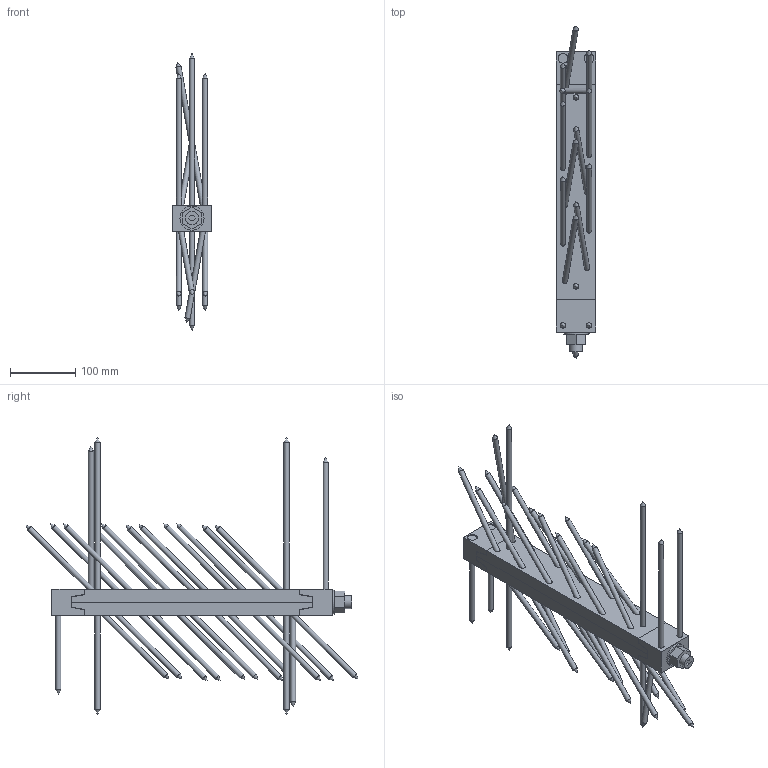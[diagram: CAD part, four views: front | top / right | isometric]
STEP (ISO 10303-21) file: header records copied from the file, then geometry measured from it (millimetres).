
FILE_DESCRIPTION(/* description */ ('Unknown'),/* implementation_level */ '2;1');
FILE_NAME(/* name */ 'MEGANT_430x60x40_Sichtbar',/* time_stamp */ '2023-11-09T15:23:58+01:00',/* author */ ('Unknown'),/* organization */ ('Unknown'),/* preprocessor_version */ 'ST-DEVELOPER v18.104',/* originating_system */ 'Solid Edge',/* authorisation */ 'Unknown');
FILE_SCHEMA (('AUTOMOTIVE_DESIGN {1 0 10303 214 3 1 1}'));
Length unit declared in the file: millimetre
Products named in the file (14): MEGANT_430x60x40_Sichtbar; Verbinderplatte_370x60x20_HT; Verbinderplatte_370x60x20; SK_Schraube_8x160; Verbinderplatte_370x60x20_NT; SK_Schraube_8x240; Spannbacke_oben_60x50x40_NT; Spannbacke_oben_60x50x40; Spannbacke_unten_60x50x40_HT; Spannbacke_unten_60x50x40; Gewindestange_M20_L460; Mutter_M20; Beilagscheibe_M20
Assembly tree (44 placements, depth 3):
  MEGANT_430x60x40_Sichtbar
    Verbinderplatte_370x60x20_HT
      Verbinderplatte_370x60x20
      SK_Schraube_8x160  x14
    Verbinderplatte_370x60x20_NT
      Verbinderplatte_370x60x20
      SK_Schraube_8x160  x11
      SK_Schraube_8x240  x3
    Spannbacke_oben_60x50x40_NT
      Spannbacke_oben_60x50x40
      SK_Schraube_8x240  x2
    Spannbacke_unten_60x50x40_HT
      Spannbacke_unten_60x50x40
      SK_Schraube_8x160  x2
    Gewindestange_M20_L460
      Gewindestange_M20_L460
      Mutter_M20
      Beilagscheibe_M20
Bounding box: 60 x 508.97 x 424 mm (x, y, z)
Volume: 1196180.5 mm3; surface area: 369651.5 mm2
Topology: 39 solids, 39 shells, 405 faces, 933 edges, 583 vertices
Faces by surface type: plane 167, cylinder 142, cone 96
Full cylindrical faces by diameter (mm): 8 x32, 8.5 x32, 15 x64, 17.294 x1, 19.294 x1, 20 x1, 21 x2, 37 x1
Entity records: 5137 total; most frequent: DIRECTION 838, CARTESIAN_POINT 769, ORIENTED_EDGE 636, EDGE_CURVE 318, AXIS2_PLACEMENT_3D 313, FACE_BOUND 278, EDGE_LOOP 276, VERTEX_POINT 244
